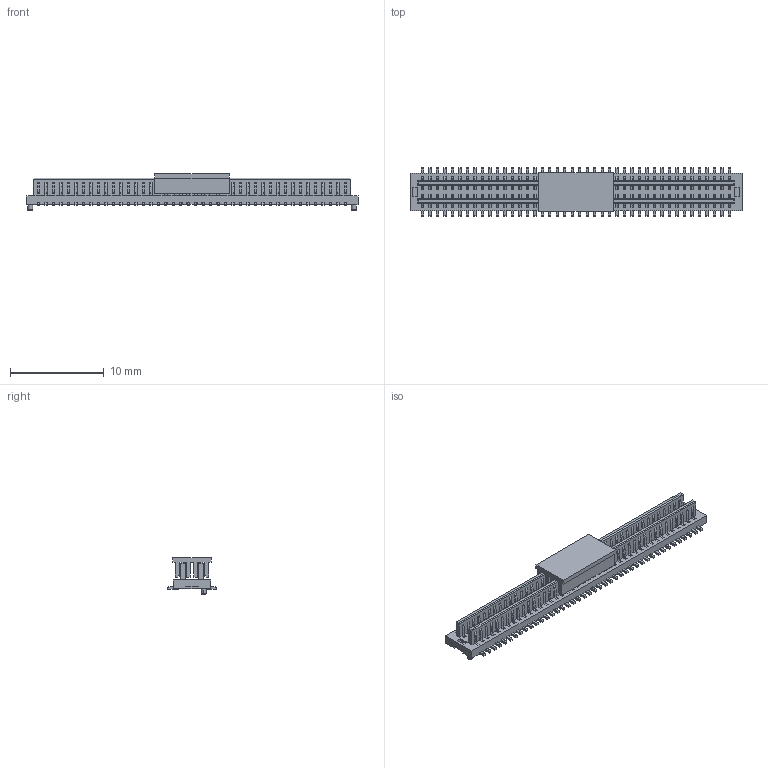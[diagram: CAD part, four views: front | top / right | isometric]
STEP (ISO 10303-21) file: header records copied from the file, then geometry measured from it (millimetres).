
FILE_DESCRIPTION (( 'STEP AP203' ), '1' );
FILE_NAME ('HC-PBB08-2-84-M-H1.0-G1-R-P-04(BTB0.8 双槽 公座 立贴 带柱 编带+盖)-HCTL.STEP', '2025-12-10T09:32:28', ( '' ), ( '' ), 'SwSTEP 2.0', 'SolidWorks 2025', '' );
FILE_SCHEMA (( 'CONFIG_CONTROL_DESIGN' ));
Length unit declared in the file: millimetre
Products named in the file (1): HC-PBB08-2-84-M-H1.0-G1-R-P-04(BTB0.8 双槽 公座 立贴 带柱 编带+盖)-HCTL
Bounding box: 35.5 x 5.2 x 3.95 mm (x, y, z)
Volume: 232.2 mm3; surface area: 1589.2 mm2
Topology: 2 solids, 2 shells, 4868 faces, 15654 edges, 10208 vertices
Faces by surface type: plane 3180, cylinder 1684, torus 4
Entity records: 173073 total; most frequent: CARTESIAN_POINT 31895, ORIENTED_EDGE 31308, DIRECTION 28432, EDGE_CURVE 15654, VECTOR 11942, LINE 11942, VERTEX_POINT 10208, AXIS2_PLACEMENT_3D 8245
